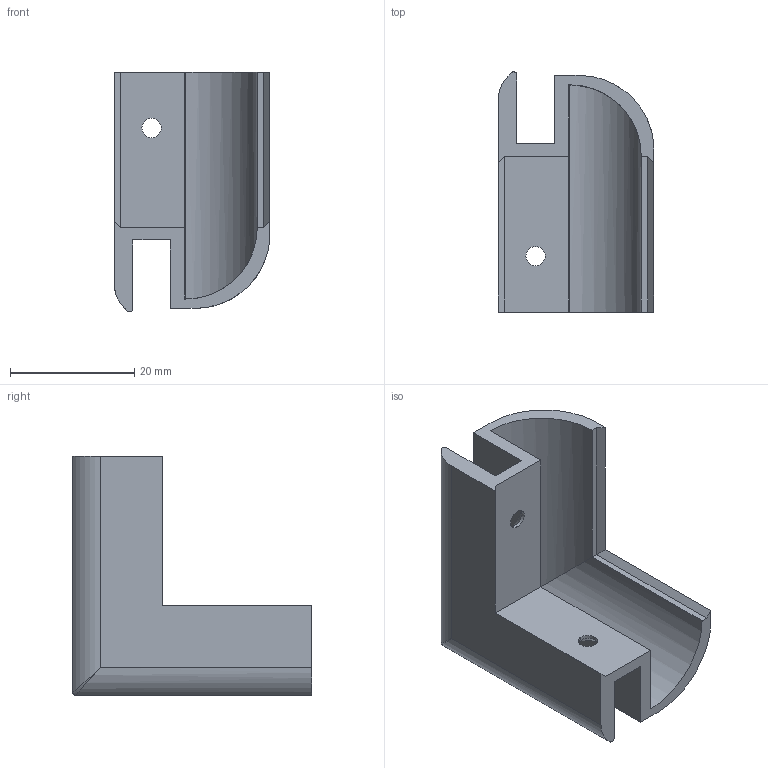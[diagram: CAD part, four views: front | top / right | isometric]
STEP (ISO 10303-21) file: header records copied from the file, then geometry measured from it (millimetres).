
FILE_DESCRIPTION (( 'STEP AP203' ), '1' );
FILE_NAME ('F025290.STEP', '2017-03-22T12:50:25', ( 'Localadmin' ), ( 'Microsoft' ), 'SwSTEP 2.0', 'SolidWorks 2016', '' );
FILE_SCHEMA (( 'CONFIG_CONTROL_DESIGN' ));
Length unit declared in the file: millimetre
Products named in the file (1): F025290
Bounding box: 25 x 38.58 x 38.58 mm (x, y, z)
Volume: 7551.2 mm3; surface area: 7307.2 mm2
Topology: 1 solids, 1 shells, 44 faces, 116 edges, 70 vertices
Faces by surface type: plane 23, cylinder 14, cone 4, bspline 2, sphere 1
Entity records: 1470 total; most frequent: CARTESIAN_POINT 314, ORIENTED_EDGE 228, DIRECTION 225, EDGE_CURVE 114, LINE 77, VECTOR 77, AXIS2_PLACEMENT_3D 74, VERTEX_POINT 70
